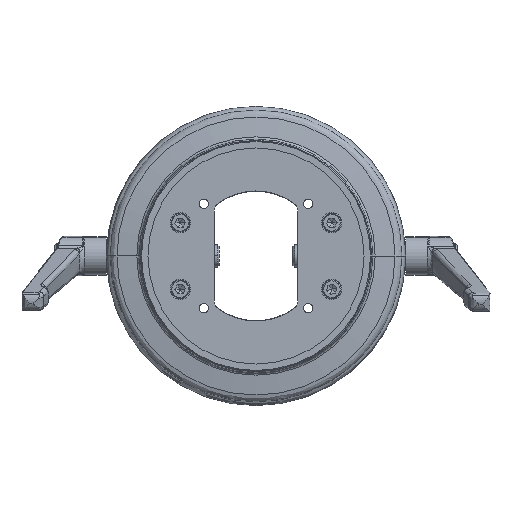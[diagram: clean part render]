
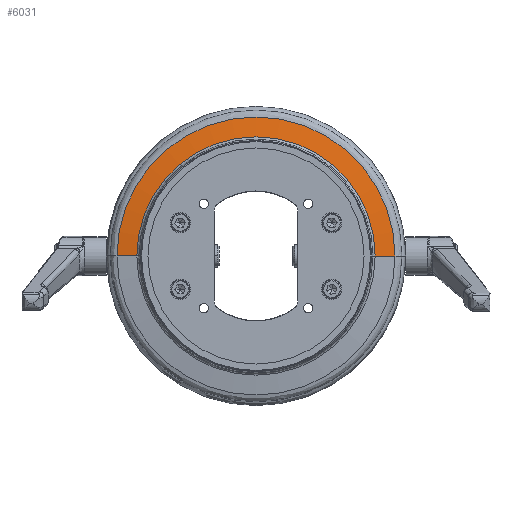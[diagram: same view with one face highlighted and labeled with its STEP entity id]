
A CAD part, front view. The second image highlights one B-rep face of the part: STEP entity #6031.
In plain terms, the highlighted conical face has half-angle 81.912 degrees and reference radius 75.259 mm.
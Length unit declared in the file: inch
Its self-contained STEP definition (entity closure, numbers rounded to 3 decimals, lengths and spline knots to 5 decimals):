
#1144 = FACE_OUTER_BOUND ( 'NONE', #10736, .T. ) ;
#2545 = AXIS2_PLACEMENT_3D ( 'NONE', #6021, #5938, #6132 ) ;
#2577 = DIRECTION ( 'NONE',  ( 0., 0., -1. ) ) ;
#5096 = ORIENTED_EDGE ( 'NONE', *, *, #13326, .T. ) ;
#5205 = CARTESIAN_POINT ( 'NONE',  ( 0., 0.78773, 0. ) ) ;
#5938 = DIRECTION ( 'NONE',  ( 0., 1., 0. ) ) ;
#6021 = CARTESIAN_POINT ( 'NONE',  ( 0., 0.78773, 0. ) ) ;
#6031 = ADVANCED_FACE ( 'NONE', ( #1144 ), #26006, .T. ) ;
#6132 = DIRECTION ( 'NONE',  ( 0., 0., 1. ) ) ;
#6961 = CARTESIAN_POINT ( 'NONE',  ( 0., 0.72776, -2.5409 ) ) ;
#8876 = DIRECTION ( 'NONE',  ( 0., 1., 0. ) ) ;
#8968 = CARTESIAN_POINT ( 'NONE',  ( 0., 0.78773, 2.96295 ) ) ;
#9056 = DIRECTION ( 'NONE',  ( 0., 0.141, 0.99 ) ) ;
#9195 = ORIENTED_EDGE ( 'NONE', *, *, #13369, .T. ) ;
#9519 = CARTESIAN_POINT ( 'NONE',  ( 0., 0.72776, 2.5409 ) ) ;
#9824 = CARTESIAN_POINT ( 'NONE',  ( 0., 0.72776, 0. ) ) ;
#10736 = EDGE_LOOP ( 'NONE', ( #9195, #5096, #13920, #24311 ) ) ;
#11126 = EDGE_CURVE ( 'NONE', #12785, #23726, #12390, .T. ) ;
#11232 = AXIS2_PLACEMENT_3D ( 'NONE', #5205, #8876, #2577 ) ;
#11287 = EDGE_CURVE ( 'NONE', #23726, #21724, #21109, .T. ) ;
#11840 = DIRECTION ( 'NONE',  ( 0., 0., 1. ) ) ;
#12390 = LINE ( 'NONE', #8968, #17688 ) ;
#12785 = VERTEX_POINT ( 'NONE', #9519 ) ;
#13326 = EDGE_CURVE ( 'NONE', #24326, #21724, #15999, .T. ) ;
#13369 = EDGE_CURVE ( 'NONE', #12785, #24326, #14783, .T. ) ;
#13687 = DIRECTION ( 'NONE',  ( 0., 0.141, -0.99 ) ) ;
#13920 = ORIENTED_EDGE ( 'NONE', *, *, #11287, .F. ) ;
#14194 = CARTESIAN_POINT ( 'NONE',  ( 0., 0.78773, 2.96295 ) ) ;
#14783 = CIRCLE ( 'NONE', #15293, 2.5409 ) ;
#15293 = AXIS2_PLACEMENT_3D ( 'NONE', #9824, #23808, #11840 ) ;
#15999 = LINE ( 'NONE', #25678, #21917 ) ;
#17688 = VECTOR ( 'NONE', #9056, 39.37008 ) ;
#21109 = CIRCLE ( 'NONE', #11232, 2.96295 ) ;
#21724 = VERTEX_POINT ( 'NONE', #23829 ) ;
#21917 = VECTOR ( 'NONE', #13687, 39.37008 ) ;
#23726 = VERTEX_POINT ( 'NONE', #14194 ) ;
#23808 = DIRECTION ( 'NONE',  ( 0., 1., 0. ) ) ;
#23829 = CARTESIAN_POINT ( 'NONE',  ( 0., 0.78773, -2.96295 ) ) ;
#24311 = ORIENTED_EDGE ( 'NONE', *, *, #11126, .F. ) ;
#24326 = VERTEX_POINT ( 'NONE', #6961 ) ;
#25678 = CARTESIAN_POINT ( 'NONE',  ( 0., 0.78773, -2.96295 ) ) ;
#26006 = CONICAL_SURFACE ( 'NONE', #2545, 2.96295, 1.43 ) ;
